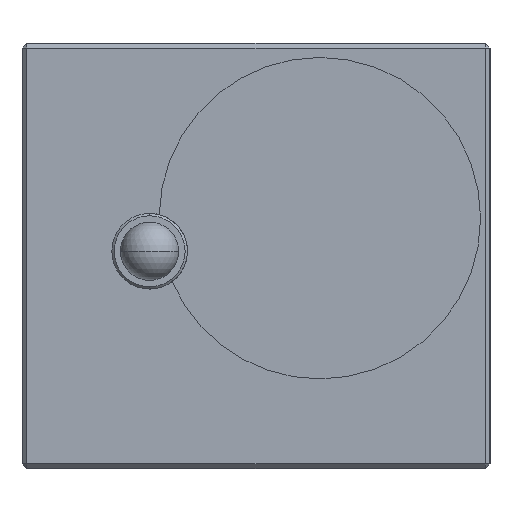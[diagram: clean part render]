
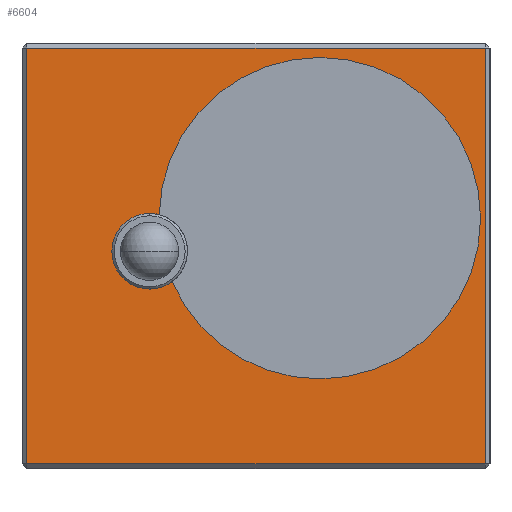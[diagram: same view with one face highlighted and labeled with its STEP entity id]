
A CAD part, left-side view. The second image highlights one B-rep face of the part: STEP entity #6604.
In plain terms, the highlighted planar face has unit normal (-1, 0, 0).
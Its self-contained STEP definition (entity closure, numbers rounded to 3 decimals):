
#9 = VERTEX_POINT ( 'NONE', #6819 ) ;
#309 = CARTESIAN_POINT ( 'NONE',  ( 0., -6.75, 4. ) ) ;
#655 = ORIENTED_EDGE ( 'NONE', *, *, #6210, .T. ) ;
#709 = EDGE_CURVE ( 'NONE', #830, #7444, #2852, .T. ) ;
#830 = VERTEX_POINT ( 'NONE', #1939 ) ;
#844 = EDGE_LOOP ( 'NONE', ( #875, #7326, #655, #2294 ) ) ;
#875 = ORIENTED_EDGE ( 'NONE', *, *, #1249, .T. ) ;
#966 = ORIENTED_EDGE ( 'NONE', *, *, #2285, .F. ) ;
#1038 = EDGE_CURVE ( 'NONE', #7591, #9, #3844, .T. ) ;
#1041 = ORIENTED_EDGE ( 'NONE', *, *, #3684, .F. ) ;
#1249 = EDGE_CURVE ( 'NONE', #2504, #6800, #8221, .T. ) ;
#1251 = PLANE ( 'NONE',  #2010 ) ;
#1257 = AXIS2_PLACEMENT_3D ( 'NONE', #3344, #3922, #4039 ) ;
#1309 = CARTESIAN_POINT ( 'NONE',  ( 0., 11.25, 0.5 ) ) ;
#1312 = ORIENTED_EDGE ( 'NONE', *, *, #5808, .F. ) ;
#1501 = VECTOR ( 'NONE', #2139, 1000. ) ;
#1502 = VECTOR ( 'NONE', #1768, 1000. ) ;
#1596 = AXIS2_PLACEMENT_3D ( 'NONE', #309, #2968, #5563 ) ;
#1598 = DIRECTION ( 'NONE',  ( 0., 0., 1. ) ) ;
#1694 = EDGE_CURVE ( 'NONE', #3724, #2504, #4487, .T. ) ;
#1711 = ORIENTED_EDGE ( 'NONE', *, *, #3457, .F. ) ;
#1749 = ORIENTED_EDGE ( 'NONE', *, *, #1038, .F. ) ;
#1768 = DIRECTION ( 'NONE',  ( 0., 0., 1. ) ) ;
#1887 = AXIS2_PLACEMENT_3D ( 'NONE', #6775, #3515, #1598 ) ;
#1939 = CARTESIAN_POINT ( 'NONE',  ( 0., 10.246, 4.372 ) ) ;
#1973 = LINE ( 'NONE', #7212, #8234 ) ;
#2010 = AXIS2_PLACEMENT_3D ( 'NONE', #6623, #4016, #3364 ) ;
#2016 = EDGE_CURVE ( 'NONE', #6800, #7149, #1973, .T. ) ;
#2139 = DIRECTION ( 'NONE',  ( 0., -1., 0. ) ) ;
#2186 = CARTESIAN_POINT ( 'NONE',  ( 0., -24.75, -22. ) ) ;
#2254 = VERTEX_POINT ( 'NONE', #2697 ) ;
#2285 = EDGE_CURVE ( 'NONE', #7444, #2254, #5359, .T. ) ;
#2294 = ORIENTED_EDGE ( 'NONE', *, *, #1694, .T. ) ;
#2504 = VERTEX_POINT ( 'NONE', #3940 ) ;
#2584 = CARTESIAN_POINT ( 'NONE',  ( 0., -6.75, 4. ) ) ;
#2697 = CARTESIAN_POINT ( 'NONE',  ( 0., 11.25, -3.5 ) ) ;
#2846 = CARTESIAN_POINT ( 'NONE',  ( 0., -6.75, 21. ) ) ;
#2852 = CIRCLE ( 'NONE', #7759, 4. ) ;
#2968 = DIRECTION ( 'NONE',  ( -1., 0., 0. ) ) ;
#3282 = DIRECTION ( 'NONE',  ( 0., 0., -1. ) ) ;
#3344 = CARTESIAN_POINT ( 'NONE',  ( 0., 11.25, 0.5 ) ) ;
#3364 = DIRECTION ( 'NONE',  ( 0., 0., 1. ) ) ;
#3457 = EDGE_CURVE ( 'NONE', #6694, #830, #3683, .T. ) ;
#3515 = DIRECTION ( 'NONE',  ( -1., 0., 0. ) ) ;
#3683 = CIRCLE ( 'NONE', #1596, 17. ) ;
#3684 = EDGE_CURVE ( 'NONE', #9, #6694, #6698, .T. ) ;
#3724 = VERTEX_POINT ( 'NONE', #6946 ) ;
#3775 = DIRECTION ( 'NONE',  ( 0., 0., 1. ) ) ;
#3844 = CIRCLE ( 'NONE', #6980, 17. ) ;
#3922 = DIRECTION ( 'NONE',  ( -1., 0., 0. ) ) ;
#3940 = CARTESIAN_POINT ( 'NONE',  ( 0., -24.25, 22. ) ) ;
#4016 = DIRECTION ( 'NONE',  ( -1., 0., 0. ) ) ;
#4031 = EDGE_LOOP ( 'NONE', ( #6804, #1711, #1041, #1749, #1312, #966 ) ) ;
#4039 = DIRECTION ( 'NONE',  ( 0., 0., 1. ) ) ;
#4316 = DIRECTION ( 'NONE',  ( 0., 1., 0. ) ) ;
#4487 = LINE ( 'NONE', #8397, #1502 ) ;
#4499 = CARTESIAN_POINT ( 'NONE',  ( 0., 8.868, -2.714 ) ) ;
#4620 = DIRECTION ( 'NONE',  ( -1., 0., 0. ) ) ;
#5076 = CARTESIAN_POINT ( 'NONE',  ( 0., 24.25, 22. ) ) ;
#5081 = FACE_BOUND ( 'NONE', #4031, .T. ) ;
#5145 = DIRECTION ( 'NONE',  ( -1., 0., 0. ) ) ;
#5305 = CIRCLE ( 'NONE', #5586, 4. ) ;
#5311 = CARTESIAN_POINT ( 'NONE',  ( 0., 24.25, -22. ) ) ;
#5359 = CIRCLE ( 'NONE', #1257, 4. ) ;
#5563 = DIRECTION ( 'NONE',  ( 0., 0., 1. ) ) ;
#5586 = AXIS2_PLACEMENT_3D ( 'NONE', #1309, #4620, #8498 ) ;
#5808 = EDGE_CURVE ( 'NONE', #2254, #7591, #5305, .T. ) ;
#6210 = EDGE_CURVE ( 'NONE', #7149, #3724, #7543, .T. ) ;
#6404 = CARTESIAN_POINT ( 'NONE',  ( 0., 11.25, 0.5 ) ) ;
#6604 = ADVANCED_FACE ( 'NONE', ( #7021, #5081 ), #1251, .T. ) ;
#6623 = CARTESIAN_POINT ( 'NONE',  ( 0., 24.75, -22.5 ) ) ;
#6694 = VERTEX_POINT ( 'NONE', #2846 ) ;
#6698 = CIRCLE ( 'NONE', #1887, 17. ) ;
#6775 = CARTESIAN_POINT ( 'NONE',  ( 0., -6.75, 4. ) ) ;
#6800 = VERTEX_POINT ( 'NONE', #5076 ) ;
#6804 = ORIENTED_EDGE ( 'NONE', *, *, #709, .F. ) ;
#6819 = CARTESIAN_POINT ( 'NONE',  ( 0., -6.75, -13. ) ) ;
#6946 = CARTESIAN_POINT ( 'NONE',  ( 0., -24.25, -22. ) ) ;
#6949 = CARTESIAN_POINT ( 'NONE',  ( 0., 11.25, 4.5 ) ) ;
#6980 = AXIS2_PLACEMENT_3D ( 'NONE', #2584, #5145, #7831 ) ;
#7021 = FACE_OUTER_BOUND ( 'NONE', #844, .T. ) ;
#7149 = VERTEX_POINT ( 'NONE', #5311 ) ;
#7212 = CARTESIAN_POINT ( 'NONE',  ( 0., 24.25, -22.5 ) ) ;
#7326 = ORIENTED_EDGE ( 'NONE', *, *, #2016, .T. ) ;
#7444 = VERTEX_POINT ( 'NONE', #6949 ) ;
#7543 = LINE ( 'NONE', #2186, #1501 ) ;
#7591 = VERTEX_POINT ( 'NONE', #4499 ) ;
#7638 = DIRECTION ( 'NONE',  ( -1., 0., 0. ) ) ;
#7759 = AXIS2_PLACEMENT_3D ( 'NONE', #6404, #7638, #3775 ) ;
#7782 = VECTOR ( 'NONE', #4316, 1000. ) ;
#7831 = DIRECTION ( 'NONE',  ( 0., 0., 1. ) ) ;
#8221 = LINE ( 'NONE', #8302, #7782 ) ;
#8234 = VECTOR ( 'NONE', #3282, 1000. ) ;
#8302 = CARTESIAN_POINT ( 'NONE',  ( 0., 24.75, 22. ) ) ;
#8397 = CARTESIAN_POINT ( 'NONE',  ( 0., -24.25, 22.5 ) ) ;
#8498 = DIRECTION ( 'NONE',  ( 0., 0., 1. ) ) ;
